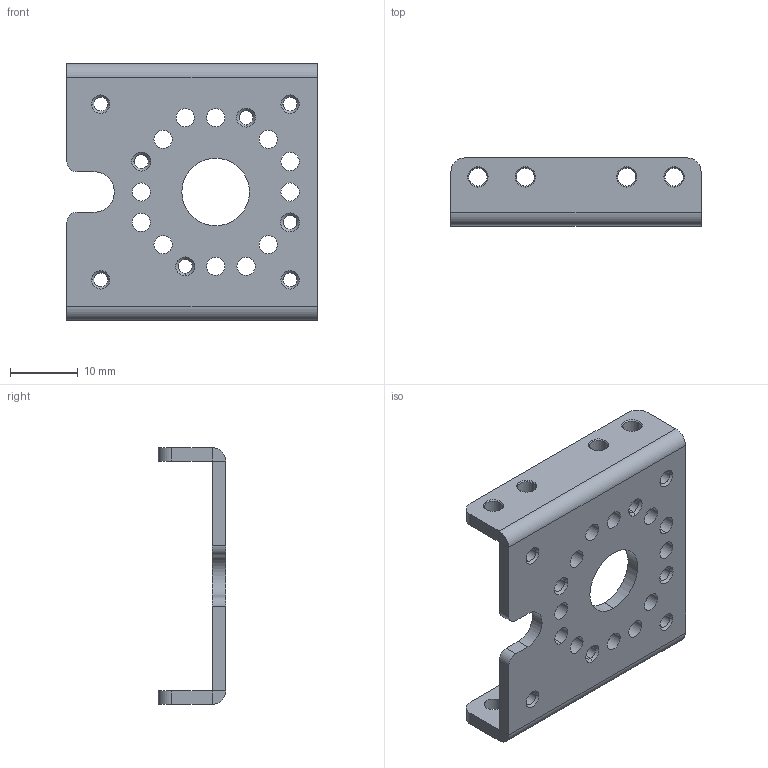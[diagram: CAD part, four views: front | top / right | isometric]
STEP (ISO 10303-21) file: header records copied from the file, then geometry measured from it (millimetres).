
FILE_DESCRIPTION((''),'2;1');
FILE_NAME('PR06_01A_ADAPTOR','2006-11-29T',('bono'),(''),'PRO/ENGINEER BY PARAMETRIC TECHNOLOGY CORPORATION, 2006170','PRO/ENGINEER BY PARAMETRIC TECHNOLOGY CORPORATION, 2006170','');
FILE_SCHEMA(('CONFIG_CONTROL_DESIGN'));
Length unit declared in the file: millimetre
Products named in the file (1): PR06_01A_ADAPTOR
Bounding box: 37 x 10 x 38 mm (x, y, z)
Volume: 3403.3 mm3; surface area: 4265.9 mm2
Topology: 1 solids, 1 shells, 144 faces, 354 edges, 212 vertices
Faces by surface type: cylinder 67, cone 56, plane 21
Entity records: 4406 total; most frequent: DIRECTION 832, CARTESIAN_POINT 710, ORIENTED_EDGE 708, EDGE_CURVE 354, AXIS2_PLACEMENT_3D 334, VERTEX_POINT 212, EDGE_LOOP 202, CIRCLE 190
